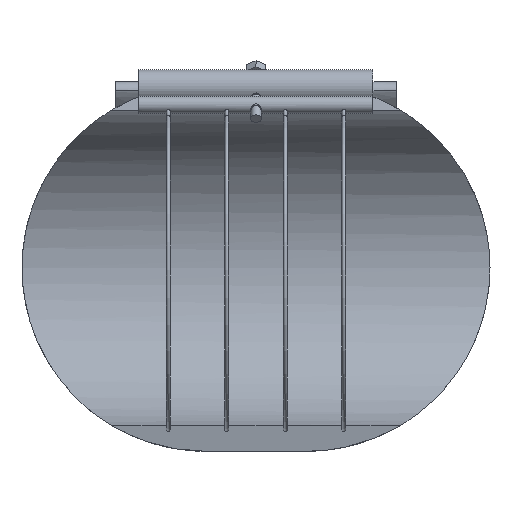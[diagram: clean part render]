
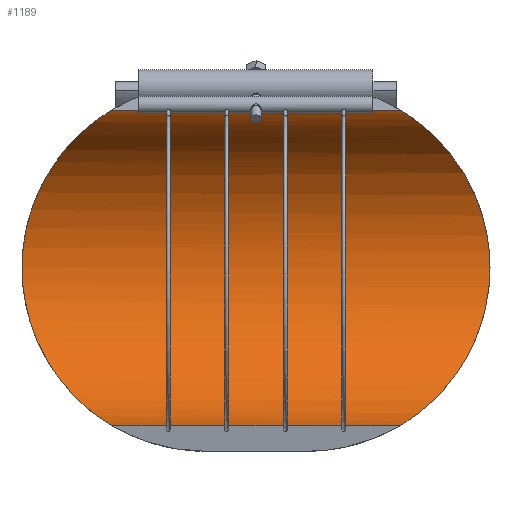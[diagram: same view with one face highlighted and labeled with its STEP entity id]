
A CAD part, front view. The second image highlights one B-rep face of the part: STEP entity #1189.
In plain terms, the highlighted cylindrical face has radius 90 mm (diameter 180 mm), a partial arc.
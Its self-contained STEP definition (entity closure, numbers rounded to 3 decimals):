
#125=FACE_OUTER_BOUND('',#203,.T.);
#203=EDGE_LOOP('',(#1060,#1061,#1062,#1063,#1064,#1065,#1066,#1067,#1068,
#1069));
#254=B_SPLINE_CURVE_WITH_KNOTS('',3,(#2682,#2683,#2684,#2685,#2686,#2687,
#2688,#2689,#2690,#2691,#2692,#2693,#2694,#2695,#2696,#2697,#2698,#2699),
 .UNSPECIFIED.,.F.,.F.,(4,2,2,2,2,2,2,2,4),(31.462,31.763,
33.682,35.602,37.521,39.332,41.143,
42.954,44.765),.UNSPECIFIED.);
#255=B_SPLINE_CURVE_WITH_KNOTS('',3,(#2700,#2701,#2702,#2703,#2704,#2705,
#2706,#2707,#2708,#2709,#2710,#2711,#2712,#2713,#2714,#2715,#2716,#2717),
 .UNSPECIFIED.,.F.,.F.,(4,2,2,2,2,2,2,2,4),(44.765,46.576,
48.387,50.198,52.008,53.928,55.847,
57.767,58.067),.UNSPECIFIED.);
#260=B_SPLINE_CURVE_WITH_KNOTS('',3,(#2829,#2830,#2831,#2832,#2833,#2834,
#2835,#2836,#2837,#2838,#2839,#2840,#2841,#2842,#2843,#2844,#2845,#2846),
 .UNSPECIFIED.,.F.,.F.,(4,2,2,2,2,2,2,2,4),(1.619,1.919,
3.839,5.758,7.678,9.489,11.3,
13.111,14.922),.UNSPECIFIED.);
#261=B_SPLINE_CURVE_WITH_KNOTS('',3,(#2848,#2849,#2850,#2851,#2852,#2853,
#2854,#2855,#2856,#2857,#2858,#2859,#2860,#2861,#2862,#2863,#2864,#2865),
 .UNSPECIFIED.,.F.,.F.,(4,2,2,2,2,2,2,2,4),(14.922,16.733,
18.543,20.354,22.165,24.085,26.004,
27.924,28.224),.UNSPECIFIED.);
#338=LINE('',#1983,#399);
#339=LINE('',#1986,#400);
#340=LINE('',#1989,#401);
#341=LINE('',#1991,#402);
#342=LINE('',#1992,#403);
#386=LINE('',#2907,#447);
#399=VECTOR('',#1398,10.);
#400=VECTOR('',#1401,10.);
#401=VECTOR('',#1404,10.);
#402=VECTOR('',#1407,10.);
#403=VECTOR('',#1408,10.);
#447=VECTOR('',#1648,10.);
#475=VERTEX_POINT('',#1971);
#477=VERTEX_POINT('',#1976);
#479=VERTEX_POINT('',#1980);
#480=VERTEX_POINT('',#1982);
#481=VERTEX_POINT('',#1985);
#482=VERTEX_POINT('',#1988);
#552=VERTEX_POINT('',#2679);
#553=VERTEX_POINT('',#2681);
#558=VERTEX_POINT('',#2828);
#559=VERTEX_POINT('',#2847);
#600=EDGE_CURVE('',#480,#479,#338,.T.);
#602=EDGE_CURVE('',#481,#480,#339,.T.);
#604=EDGE_CURVE('',#482,#481,#340,.T.);
#606=EDGE_CURVE('',#475,#482,#341,.T.);
#607=EDGE_CURVE('',#477,#475,#342,.T.);
#725=EDGE_CURVE('',#552,#553,#254,.T.);
#726=EDGE_CURVE('',#553,#479,#255,.T.);
#731=EDGE_CURVE('',#477,#558,#260,.T.);
#732=EDGE_CURVE('',#558,#559,#261,.T.);
#736=EDGE_CURVE('',#552,#559,#386,.T.);
#1060=ORIENTED_EDGE('',*,*,#731,.F.);
#1061=ORIENTED_EDGE('',*,*,#607,.T.);
#1062=ORIENTED_EDGE('',*,*,#606,.T.);
#1063=ORIENTED_EDGE('',*,*,#604,.T.);
#1064=ORIENTED_EDGE('',*,*,#602,.T.);
#1065=ORIENTED_EDGE('',*,*,#600,.T.);
#1066=ORIENTED_EDGE('',*,*,#726,.F.);
#1067=ORIENTED_EDGE('',*,*,#725,.F.);
#1068=ORIENTED_EDGE('',*,*,#736,.T.);
#1069=ORIENTED_EDGE('',*,*,#732,.F.);
#1130=CYLINDRICAL_SURFACE('',#1337,90.);
#1189=ADVANCED_FACE('',(#125),#1130,.F.);
#1337=AXIS2_PLACEMENT_3D('',#2906,#1646,#1647);
#1398=DIRECTION('',(1.,0.,0.));
#1401=DIRECTION('',(1.,0.,0.));
#1404=DIRECTION('',(1.,0.,0.));
#1407=DIRECTION('',(1.,0.,0.));
#1408=DIRECTION('',(1.,0.,0.));
#1646=DIRECTION('center_axis',(1.,0.,0.));
#1647=DIRECTION('ref_axis',(0.,1.,0.));
#1648=DIRECTION('',(-1.,0.,0.));
#1971=CARTESIAN_POINT('',(-49.313,15.628,-88.633));
#1976=CARTESIAN_POINT('',(-81.076,15.628,-88.633));
#1980=CARTESIAN_POINT('',(81.076,15.628,-88.633));
#1982=CARTESIAN_POINT('',(49.313,15.628,-88.633));
#1983=CARTESIAN_POINT('',(0.,15.628,-88.633));
#1985=CARTESIAN_POINT('',(16.438,15.628,-88.633));
#1986=CARTESIAN_POINT('',(0.,15.628,-88.633));
#1988=CARTESIAN_POINT('',(-16.438,15.628,-88.633));
#1989=CARTESIAN_POINT('',(0.,15.628,-88.633));
#1991=CARTESIAN_POINT('',(0.,15.628,-88.633));
#1992=CARTESIAN_POINT('',(0.,15.628,-88.633));
#2679=CARTESIAN_POINT('',(81.076,15.628,88.633));
#2681=CARTESIAN_POINT('',(131.5,90.,0.));
#2682=CARTESIAN_POINT('Ctrl Pts',(81.076,15.628,88.633));
#2683=CARTESIAN_POINT('Ctrl Pts',(81.353,16.56,88.468));
#2684=CARTESIAN_POINT('Ctrl Pts',(81.65,17.486,88.29));
#2685=CARTESIAN_POINT('Ctrl Pts',(83.984,24.281,86.87));
#2686=CARTESIAN_POINT('Ctrl Pts',(86.758,29.908,85.086));
#2687=CARTESIAN_POINT('Ctrl Pts',(92.923,40.648,80.51));
#2688=CARTESIAN_POINT('Ctrl Pts',(96.315,45.754,77.715));
#2689=CARTESIAN_POINT('Ctrl Pts',(103.059,55.273,71.26));
#2690=CARTESIAN_POINT('Ctrl Pts',(106.414,59.683,67.596));
#2691=CARTESIAN_POINT('Ctrl Pts',(112.445,67.372,59.907));
#2692=CARTESIAN_POINT('Ctrl Pts',(115.366,70.969,55.644));
#2693=CARTESIAN_POINT('Ctrl Pts',(120.731,77.451,46.198));
#2694=CARTESIAN_POINT('Ctrl Pts',(123.174,80.336,41.013));
#2695=CARTESIAN_POINT('Ctrl Pts',(127.215,85.066,29.994));
#2696=CARTESIAN_POINT('Ctrl Pts',(128.817,86.916,24.146));
#2697=CARTESIAN_POINT('Ctrl Pts',(130.96,89.383,12.167));
#2698=CARTESIAN_POINT('Ctrl Pts',(131.5,90.,6.036));
#2699=CARTESIAN_POINT('Ctrl Pts',(131.5,90.,0.));
#2700=CARTESIAN_POINT('Ctrl Pts',(131.5,90.,0.));
#2701=CARTESIAN_POINT('Ctrl Pts',(131.5,90.,-6.036));
#2702=CARTESIAN_POINT('Ctrl Pts',(130.96,89.383,-12.167));
#2703=CARTESIAN_POINT('Ctrl Pts',(128.817,86.916,-24.146));
#2704=CARTESIAN_POINT('Ctrl Pts',(127.215,85.066,-29.994));
#2705=CARTESIAN_POINT('Ctrl Pts',(123.174,80.336,-41.013));
#2706=CARTESIAN_POINT('Ctrl Pts',(120.731,77.451,-46.198));
#2707=CARTESIAN_POINT('Ctrl Pts',(115.366,70.969,-55.644));
#2708=CARTESIAN_POINT('Ctrl Pts',(112.445,67.372,-59.907));
#2709=CARTESIAN_POINT('Ctrl Pts',(106.414,59.683,-67.596));
#2710=CARTESIAN_POINT('Ctrl Pts',(103.059,55.273,-71.26));
#2711=CARTESIAN_POINT('Ctrl Pts',(96.315,45.754,-77.715));
#2712=CARTESIAN_POINT('Ctrl Pts',(92.923,40.648,-80.51));
#2713=CARTESIAN_POINT('Ctrl Pts',(86.758,29.908,-85.086));
#2714=CARTESIAN_POINT('Ctrl Pts',(83.984,24.281,-86.87));
#2715=CARTESIAN_POINT('Ctrl Pts',(81.65,17.486,-88.29));
#2716=CARTESIAN_POINT('Ctrl Pts',(81.353,16.56,-88.468));
#2717=CARTESIAN_POINT('Ctrl Pts',(81.076,15.628,-88.633));
#2828=CARTESIAN_POINT('',(-131.5,90.,0.));
#2829=CARTESIAN_POINT('Ctrl Pts',(-81.076,15.628,-88.633));
#2830=CARTESIAN_POINT('Ctrl Pts',(-81.353,16.56,-88.468));
#2831=CARTESIAN_POINT('Ctrl Pts',(-81.65,17.486,-88.29));
#2832=CARTESIAN_POINT('Ctrl Pts',(-83.984,24.281,-86.87));
#2833=CARTESIAN_POINT('Ctrl Pts',(-86.758,29.908,-85.086));
#2834=CARTESIAN_POINT('Ctrl Pts',(-92.923,40.648,-80.51));
#2835=CARTESIAN_POINT('Ctrl Pts',(-96.315,45.754,-77.715));
#2836=CARTESIAN_POINT('Ctrl Pts',(-103.059,55.273,-71.26));
#2837=CARTESIAN_POINT('Ctrl Pts',(-106.414,59.683,-67.596));
#2838=CARTESIAN_POINT('Ctrl Pts',(-112.445,67.372,-59.907));
#2839=CARTESIAN_POINT('Ctrl Pts',(-115.366,70.969,-55.644));
#2840=CARTESIAN_POINT('Ctrl Pts',(-120.731,77.451,-46.198));
#2841=CARTESIAN_POINT('Ctrl Pts',(-123.174,80.336,-41.013));
#2842=CARTESIAN_POINT('Ctrl Pts',(-127.215,85.066,-29.994));
#2843=CARTESIAN_POINT('Ctrl Pts',(-128.817,86.916,-24.146));
#2844=CARTESIAN_POINT('Ctrl Pts',(-130.96,89.383,-12.167));
#2845=CARTESIAN_POINT('Ctrl Pts',(-131.5,90.,-6.036));
#2846=CARTESIAN_POINT('Ctrl Pts',(-131.5,90.,0.));
#2847=CARTESIAN_POINT('',(-81.076,15.628,88.633));
#2848=CARTESIAN_POINT('Ctrl Pts',(-131.5,90.,0.));
#2849=CARTESIAN_POINT('Ctrl Pts',(-131.5,90.,6.036));
#2850=CARTESIAN_POINT('Ctrl Pts',(-130.96,89.383,12.167));
#2851=CARTESIAN_POINT('Ctrl Pts',(-128.817,86.916,24.146));
#2852=CARTESIAN_POINT('Ctrl Pts',(-127.215,85.066,29.994));
#2853=CARTESIAN_POINT('Ctrl Pts',(-123.174,80.336,41.013));
#2854=CARTESIAN_POINT('Ctrl Pts',(-120.731,77.451,46.198));
#2855=CARTESIAN_POINT('Ctrl Pts',(-115.366,70.969,55.644));
#2856=CARTESIAN_POINT('Ctrl Pts',(-112.445,67.372,59.907));
#2857=CARTESIAN_POINT('Ctrl Pts',(-106.414,59.683,67.596));
#2858=CARTESIAN_POINT('Ctrl Pts',(-103.059,55.273,71.26));
#2859=CARTESIAN_POINT('Ctrl Pts',(-96.315,45.754,77.715));
#2860=CARTESIAN_POINT('Ctrl Pts',(-92.923,40.648,80.51));
#2861=CARTESIAN_POINT('Ctrl Pts',(-86.758,29.908,85.086));
#2862=CARTESIAN_POINT('Ctrl Pts',(-83.984,24.281,86.87));
#2863=CARTESIAN_POINT('Ctrl Pts',(-81.65,17.486,88.29));
#2864=CARTESIAN_POINT('Ctrl Pts',(-81.353,16.56,88.468));
#2865=CARTESIAN_POINT('Ctrl Pts',(-81.076,15.628,88.633));
#2906=CARTESIAN_POINT('Origin',(0.,0.,0.));
#2907=CARTESIAN_POINT('',(0.,15.628,88.633));
